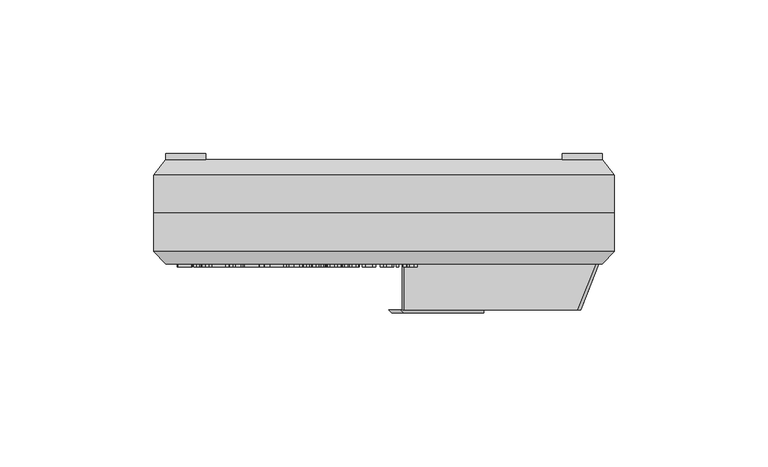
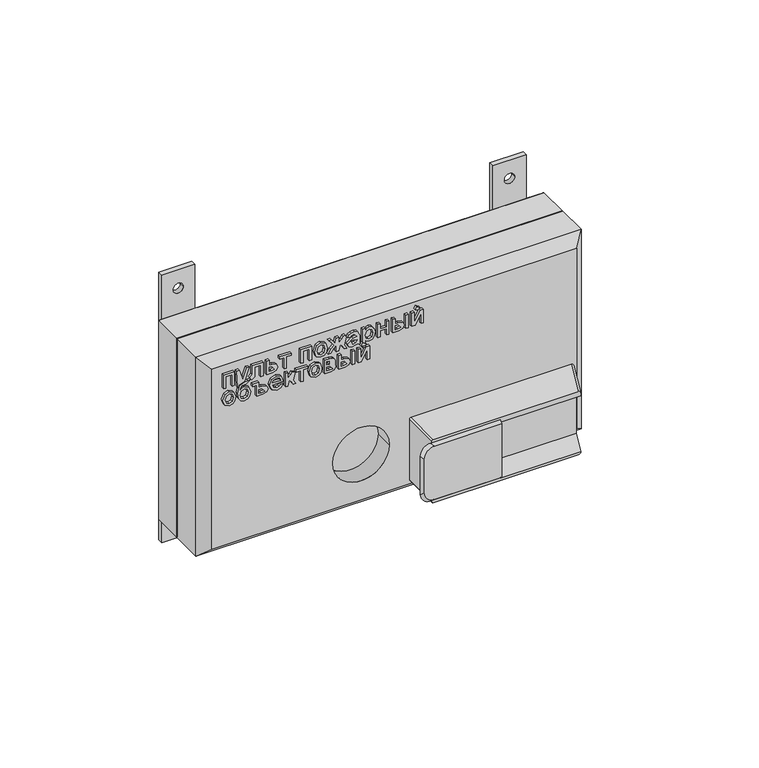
"""IFC4 building model written with IfcOpenShell, lengths in millimetres: alarm geometry, ППО 01_тип модель : ППО 01."""

from ifc_helpers import new_model, si_unit, point, frame, frame_2d, origin, place, context, project, spatial, polyline, circle_curve, trimmed, segment, composite_curve, outline, extrude, faceted_brep, source, transform, mapped, element, save
from ifc_brep_helpers import plane_surface, cylinder_surface, revolved_surface, extruded_surface, advanced_brep


def alarm_379a8da4(model_context):
    return source(origin(), model_context, "Body", "SolidModel", [
        extrude(outline(polyline([(13.658784, -58.0), (13.658784, -71.0), (-14.341216, -71.0), (-14.341216, -58.0), (13.658784, -58.0)]), holes=[composite_curve([segment(trimmed(circle_curve(frame_2d((6.158784, -64.5)), 2.0), [point((6.158784, -66.5))], [point((6.158784, -62.5))], True, "CARTESIAN"), True, "CONTINUOUS"), segment(trimmed(circle_curve(frame_2d((6.158784, -64.5)), 2.0), [point((6.158784, -62.5))], [point((6.158784, -66.5))], True, "CARTESIAN"), True, "CONTINUOUS")], self_intersect=False)]), frame((0.0, -2.0, 0.0), z_axis=(0.0, 1.0, 0.0), x_axis=(0.0, 0.0, 1.0)), (0.0, 0.0, 1.0), 2.0),
        extrude(outline(polyline([(-68.341216, -58.0), (-68.341216, -71.0), (-96.341216, -71.0), (-96.341216, -58.0), (-68.341216, -58.0)]), holes=[composite_curve([segment(trimmed(circle_curve(frame_2d((-88.841216, -64.5)), 2.0), [point((-88.841216, -66.5))], [point((-88.841216, -62.5))], True, "CARTESIAN"), True, "CONTINUOUS"), segment(trimmed(circle_curve(frame_2d((-88.841216, -64.5)), 2.0), [point((-88.841216, -62.5))], [point((-88.841216, -66.5))], True, "CARTESIAN"), True, "CONTINUOUS")], self_intersect=False)]), frame((0.0, -2.0, 0.0), z_axis=(0.0, 1.0, 0.0), x_axis=(0.0, 0.0, 1.0)), (0.0, 0.0, 1.0), 2.0),
        extrude(outline(polyline([(13.658784, 58.0), (-14.341216, 58.0), (-14.341216, 71.0), (13.658784, 71.0), (13.658784, 58.0)]), holes=[composite_curve([segment(trimmed(circle_curve(frame_2d((6.158784, 64.5)), 2.0), [point((6.158784, 66.5))], [point((6.158784, 62.5))], True, "CARTESIAN"), True, "CONTINUOUS"), segment(trimmed(circle_curve(frame_2d((6.158784, 64.5)), 2.0), [point((6.158784, 62.5))], [point((6.158784, 66.5))], True, "CARTESIAN"), True, "CONTINUOUS")], self_intersect=False)]), frame((0.0, -2.0, 0.0), z_axis=(0.0, 1.0, 0.0), x_axis=(0.0, 0.0, 1.0)), (0.0, 0.0, 1.0), 2.0),
        extrude(outline(polyline([(-68.341216, 58.0), (-96.341216, 58.0), (-96.341216, 71.0), (-68.341216, 71.0), (-68.341216, 58.0)]), holes=[composite_curve([segment(trimmed(circle_curve(frame_2d((-88.841216, 64.5)), 2.0), [point((-88.841216, 66.5))], [point((-88.841216, 62.5))], True, "CARTESIAN"), True, "CONTINUOUS"), segment(trimmed(circle_curve(frame_2d((-88.841216, 64.5)), 2.0), [point((-88.841216, 62.5))], [point((-88.841216, 66.5))], True, "CARTESIAN"), True, "CONTINUOUS")], self_intersect=False)]), frame((0.0, -2.0, 0.0), z_axis=(0.0, 1.0, 0.0), x_axis=(0.0, 0.0, 1.0)), (0.0, 0.0, 1.0), 2.0),
        extrude(outline(polyline([(-18.042941, -67.2829007), (-20.1840142, -66.5995599), (-20.9271358, -64.8088943), (-20.5896041, -63.5332634), (-19.6413883, -62.6439087), (-17.9656858, -62.3385667), (-15.9046269, -63.0292651), (-15.1587461, -64.8088943), (-15.7712697, -66.4680421), (-18.042941, -67.2829007)]), holes=[polyline([(-18.0411016, -66.3411228), (-16.5833692, -65.9051826), (-16.100524, -64.8088943), (-16.5852086, -63.7190439), (-18.011671, -63.2803446), (-19.4979143, -63.7162847), (-19.9853579, -64.8088943), (-19.5006734, -65.9051826), (-18.0411016, -66.3411228)])]), frame((0.0, -37.0, 0.0), z_axis=(0.0, 1.0, 0.0), x_axis=(0.0, 0.0, 1.0)), (0.0, 0.0, 1.0), 1.0),
        extrude(outline(polyline([(-13.2057526, -57.474247), (-13.2751903, -58.602725), (-14.0247499, -60.7999002), (-16.9337768, -61.514511), (-19.3461629, -61.2312419), (-20.4829183, -60.4173029), (-20.9271358, -58.93014), (-20.5822465, -57.6278377), (-19.6046001, -56.8010229), (-17.9840799, -56.4524547), (-15.9211816, -57.1551094), (-15.1587461, -58.93014), (-15.45857, -59.9813628), (-16.3598809, -60.7971411), (-15.1293156, -60.5957257), (-14.4340186, -59.9997569), (-14.2169682, -58.4463752), (-13.1574681, -56.570177), (-13.2057526, -57.474247)]), holes=[polyline([(-17.9546493, -57.3942326), (-19.4289364, -57.8283334), (-19.9853579, -58.9595705), (-19.5043522, -60.1073624), (-18.1165174, -60.5727331), (-16.6495879, -60.1515082), (-16.100524, -58.9540523), (-16.6201574, -57.8025817), (-17.9546493, -57.3942326)])]), frame((0.0, -37.0, 0.0), z_axis=(0.0, 1.0, 0.0), x_axis=(0.0, 0.0, 1.0)), (0.0, 0.0, 1.0), 1.0),
        extrude(outline(polyline([(-15.2764684, -55.7461213), (-16.2182463, -55.7461213), (-16.2182463, -54.2157322), (-20.8094136, -54.2157322), (-20.8094136, -51.9017545), (-20.3376049, -50.2885919), (-19.115317, -49.7422871), (-17.8939488, -50.3033072), (-17.3954687, -52.105929), (-17.3954687, -53.2739543), (-15.2764684, -53.2739543), (-15.2764684, -55.7461213)]), holes=[polyline([(-19.8676357, -53.2739543), (-18.3372466, -53.2739543), (-18.3372466, -52.1813448), (-19.6864538, -51.0528668), (-19.8676357, -52.3045852), (-19.8676357, -53.2739543)])]), frame((0.0, -37.0, 0.0), z_axis=(0.0, 1.0, 0.0), x_axis=(0.0, 0.0, 1.0)), (0.0, 0.0, 1.0), 1.0),
        extrude(outline(polyline([(-19.1613022, -44.8089896), (-19.788541, -45.4159949), (-19.9853579, -46.3393787), (-19.5604542, -47.5524696), (-18.3372466, -48.0941758), (-18.083408, -43.8561752), (-15.9257801, -44.570786), (-15.1587461, -46.4111157), (-15.9276195, -48.305708), (-18.0889262, -49.0359537), (-20.1812551, -48.3130656), (-20.9271358, -46.3577728), (-20.4948745, -44.7492088), (-19.2790245, -43.8856058), (-19.1613022, -44.8089896)]), holes=[polyline([(-17.3954687, -48.0941758), (-16.4527711, -47.5745425), (-16.100524, -46.4147945), (-16.5419824, -45.1750322), (-17.3954687, -44.7979531), (-17.3954687, -48.0941758)])]), frame((0.0, -37.0, 0.0), z_axis=(0.0, 1.0, 0.0), x_axis=(0.0, 0.0, 1.0)), (0.0, 0.0, 1.0), 1.0),
        extrude(outline(polyline([(-15.2764684, -42.9143973), (-20.8094136, -42.9143973), (-20.8094136, -41.9726194), (-18.3933486, -41.4667817), (-19.1116382, -40.970141), (-20.8094136, -39.9823778), (-20.8094136, -38.9118412), (-19.07485, -39.9198379), (-16.2237645, -39.1472857), (-15.6250366, -40.3953254), (-16.4757637, -40.8248276), (-17.6309131, -41.9726194), (-15.2764684, -41.9726194), (-15.2764684, -42.9143973)])), frame((0.0, -37.0, 0.0), z_axis=(0.0, 1.0, 0.0), x_axis=(0.0, 0.0, 1.0)), (0.0, 0.0, 1.0), 1.0),
        extrude(outline(polyline([(-15.2764684, -38.794119), (-16.2182463, -38.794119), (-16.2182463, -37.0282854), (-20.8094136, -37.0282854), (-20.8094136, -36.0865075), (-16.2182463, -36.0865075), (-16.2182463, -34.3206739), (-15.2764684, -34.3206739), (-15.2764684, -38.794119)])), frame((0.0, -37.0, 0.0), z_axis=(0.0, 1.0, 0.0), x_axis=(0.0, 0.0, 1.0)), (0.0, 0.0, 1.0), 1.0),
        extrude(outline(polyline([(-18.042941, -33.7320627), (-20.1840142, -33.0487219), (-20.9271358, -31.2580563), (-20.5896041, -29.9824255), (-19.6413883, -29.0930708), (-17.9656858, -28.7877287), (-15.9046269, -29.4784271), (-15.1587461, -31.2580563), (-15.7712697, -32.9172041), (-18.042941, -33.7320627)]), holes=[polyline([(-18.0411016, -32.7902848), (-16.5833692, -32.3543446), (-16.100524, -31.2580563), (-16.5852086, -30.1682059), (-18.011671, -29.7295066), (-19.4979143, -30.1654468), (-19.9853579, -31.2580563), (-19.5006734, -32.3543446), (-18.0411016, -32.7902848)])]), frame((0.0, -37.0, 0.0), z_axis=(0.0, 1.0, 0.0), x_axis=(0.0, 0.0, 1.0)), (0.0, 0.0, 1.0), 1.0),
        extrude(outline(polyline([(-15.2764684, -27.7282286), (-20.8094136, -27.7282286), (-20.8094136, -25.3351562), (-20.4102616, -23.9114529), (-19.187054, -23.3725057), (-18.2995387, -23.6245049), (-16.6689017, -23.6079502), (-15.8641599, -23.8755844), (-15.402468, -24.515699), (-15.2764684, -25.6533741), (-15.2764684, -27.7282286)]), holes=[polyline([(-19.8676357, -26.7864506), (-18.3372466, -26.7864506), (-18.3372466, -25.7232717), (-19.6974903, -24.6067498), (-19.8676357, -25.6313012), (-19.8676357, -26.7864506)]), polyline([(-17.3954687, -26.7864506), (-16.2182463, -26.7864506), (-16.2182463, -25.8262786), (-17.3954687, -25.8557092), (-17.3954687, -26.7864506)])]), frame((0.0, -37.0, 0.0), z_axis=(0.0, 1.0, 0.0), x_axis=(0.0, 0.0, 1.0)), (0.0, 0.0, 1.0), 1.0),
        extrude(outline(polyline([(-16.0737269, -37.0), (-17.0155049, -37.0), (-17.0155049, -36.0), (-16.0737269, -36.0), (-16.0737269, -37.0)])), frame((0.0, 0.0, -20.8094136), z_axis=(0.0, 0.0, 1.0), x_axis=(1.0, 0.0, 0.0)), (0.0, 0.0, 1.0), 5.5329452),
        extrude(outline(polyline([(-15.2764684, -22.1952833), (-20.8094136, -22.1952833), (-20.8094136, -19.8868238), (-20.2934591, -18.2377928), (-19.0509376, -17.7218383), (-17.7495551, -18.3371209), (-17.2777464, -20.0891589), (-17.2777464, -21.2535054), (-15.2764684, -21.2535054), (-15.2764684, -22.1952833)]), holes=[polyline([(-19.8676357, -21.2535054), (-18.2195243, -21.2535054), (-18.2195243, -20.1627353), (-19.6698991, -19.0370164), (-19.8676357, -20.2859758), (-19.8676357, -21.2535054)])]), frame((0.0, -37.0, 0.0), z_axis=(0.0, 1.0, 0.0), x_axis=(0.0, 0.0, 1.0)), (0.0, 0.0, 1.0), 1.0),
        extrude(outline(polyline([(-13.2751903, -12.7775043), (-14.3254934, -13.4636042), (-14.6878572, -12.3654764), (-14.3227343, -11.3510418), (-13.2751903, -12.7775043)])), frame((0.0, -37.0, 0.0), z_axis=(0.0, 1.0, 0.0), x_axis=(0.0, 0.0, 1.0)), (0.0, 0.0, 1.0), 1.0),
        extrude(outline(polyline([(-15.2764684, -14.6610601), (-20.8094136, -14.6610601), (-20.8094136, -13.4286554), (-16.6155588, -11.1293929), (-20.8094136, -11.1293929), (-20.8094136, -10.187615), (-15.2764684, -10.187615), (-15.2764684, -11.4053044), (-19.4960749, -13.7192822), (-15.2764684, -13.7192822), (-15.2764684, -14.6610601)])), frame((0.0, -37.0, 0.0), z_axis=(0.0, 1.0, 0.0), x_axis=(0.0, 0.0, 1.0)), (0.0, 0.0, 1.0), 1.0),
        extrude(outline(polyline([(-7.6671959, -67.0474562), (-13.2001411, -67.0474562), (-13.2001411, -66.1056783), (-8.6089738, -66.1056783), (-8.6089738, -63.7512335), (-13.2001411, -63.7512335), (-13.2001411, -62.8094556), (-7.6671959, -62.8094556), (-7.6671959, -67.0474562)])), frame((0.0, -37.0, 0.0), z_axis=(0.0, 1.0, 0.0), x_axis=(0.0, 0.0, 1.0)), (0.0, 0.0, 1.0), 1.0),
        extrude(outline(polyline([(-15.2722365, -60.7419588), (-14.5613045, -59.5408241), (-13.3325786, -59.0405046), (-7.6671959, -57.1146423), (-7.6671959, -58.1005661), (-10.8824846, -59.1913362), (-11.9677364, -59.5610576), (-10.7390106, -59.930779), (-7.6671959, -60.9921186), (-7.6671959, -61.9853999), (-14.4123123, -61.514511), (-15.2722365, -60.7419588)])), frame((0.0, -37.0, 0.0), z_axis=(0.0, 1.0, 0.0), x_axis=(0.0, 0.0, 1.0)), (0.0, 0.0, 1.0), 1.0),
        extrude(outline(polyline([(-7.6671959, -55.8638435), (-11.1951843, -55.8638435), (-12.2583632, -56.9233437), (-13.2001411, -56.1581491), (-12.4662165, -54.9855253), (-11.2485271, -54.9220656), (-8.6089738, -54.9220656), (-8.6089738, -52.5676209), (-13.1946229, -52.5676209), (-13.1946229, -51.625843), (-7.6671959, -51.625843), (-7.6671959, -55.8638435)])), frame((0.0, -37.0, 0.0), z_axis=(0.0, 1.0, 0.0), x_axis=(0.0, 0.0, 1.0)), (0.0, 0.0, 1.0), 1.0),
        extrude(outline(polyline([(-7.6671959, -50.2131761), (-13.2001411, -50.2131761), (-13.2001411, -48.0261176), (-12.6841866, -46.4635389), (-11.4416652, -45.9751755), (-10.1402826, -46.5490714), (-9.668474, -48.1861463), (-9.668474, -49.2713982), (-7.6671959, -49.2713982), (-7.6671959, -50.2131761)]), holes=[polyline([(-12.2583632, -49.2713982), (-10.6102519, -49.2713982), (-10.6102519, -48.2799562), (-12.0606266, -47.2563246), (-12.2583632, -48.3921602), (-12.2583632, -49.2713982)])]), frame((0.0, -37.0, 0.0), z_axis=(0.0, 1.0, 0.0), x_axis=(0.0, 0.0, 1.0)), (0.0, 0.0, 1.0), 1.0),
        extrude(outline(polyline([(-7.6671959, -45.2688421), (-8.6089738, -45.2688421), (-8.6089738, -43.5030085), (-13.2001411, -43.5030085), (-13.2001411, -42.5612306), (-8.6089738, -42.5612306), (-8.6089738, -40.795397), (-7.6671959, -40.795397), (-7.6671959, -45.2688421)])), frame((0.0, -37.0, 0.0), z_axis=(0.0, 1.0, 0.0), x_axis=(0.0, 0.0, 1.0)), (0.0, 0.0, 1.0), 1.0),
        extrude(outline(polyline([(-7.6671959, -37.0282854), (-13.2001411, -37.0282854), (-13.2001411, -36.0865075), (-8.6089738, -36.0865075), (-8.6089738, -33.7320627), (-13.2001411, -33.7320627), (-13.2001411, -32.7902848), (-7.6671959, -32.7902848), (-7.6671959, -37.0282854)])), frame((0.0, -37.0, 0.0), z_axis=(0.0, 1.0, 0.0), x_axis=(0.0, 0.0, 1.0)), (0.0, 0.0, 1.0), 1.0),
        extrude(outline(polyline([(-10.4336685, -31.6130624), (-12.5747417, -30.9297216), (-13.3178634, -29.139056), (-12.9803316, -27.8634252), (-12.0321158, -26.9740705), (-10.3564133, -26.6687284), (-8.2953544, -27.3594269), (-7.5494737, -29.139056), (-8.1619972, -30.7982038), (-10.4336685, -31.6130624)]), holes=[polyline([(-10.4318291, -30.6712845), (-8.9740967, -30.2353444), (-8.4912516, -29.139056), (-8.9759361, -28.0492056), (-10.4023986, -27.6105063), (-11.8886418, -28.0464465), (-12.3760855, -29.139056), (-11.8914009, -30.2353444), (-10.4318291, -30.6712845)])]), frame((0.0, -37.0, 0.0), z_axis=(0.0, 1.0, 0.0), x_axis=(0.0, 0.0, 1.0)), (0.0, 0.0, 1.0), 1.0),
        extrude(outline(polyline([(-7.6671959, -22.1952833), (-7.6671959, -23.1370613), (-9.821145, -23.689804), (-8.820506, -24.203919), (-7.726057, -25.1125876), (-7.6671959, -26.0801172), (-8.9860529, -25.145697), (-10.3269827, -24.0457298), (-11.4655775, -25.2689374), (-13.2001411, -26.3155617), (-13.2001411, -25.2376674), (-11.485811, -24.203919), (-10.6102519, -23.1370613), (-13.2001411, -23.1370613), (-13.2001411, -22.1952833), (-10.7785579, -21.6572559), (-11.4894898, -21.130265), (-13.2001411, -20.0965166), (-13.2001411, -19.0167829), (-11.4655775, -20.067086), (-8.6144921, -19.2522274), (-7.6671959, -19.6256276), (-7.8548157, -20.506705), (-8.820506, -21.1265862), (-10.0216407, -22.1952833), (-7.6671959, -22.1952833)])), frame((0.0, -37.0, 0.0), z_axis=(0.0, 1.0, 0.0), x_axis=(0.0, 0.0, 1.0)), (0.0, 0.0, 1.0), 1.0),
        extrude(outline(polyline([(-12.8469744, -14.8965046), (-13.2001411, -13.8370044), (-12.4082751, -14.0246242), (-10.77212, -14.0724489), (-9.6004158, -14.0724489), (-7.71686, -15.0519347), (-7.5494737, -16.1932886), (-7.7389329, -17.43581), (-8.27788, -18.2561869), (-9.197585, -18.6636162), (-9.3153073, -17.7218383), (-8.6724335, -17.267504), (-8.4912516, -16.3146897), (-9.668474, -15.019745), (-9.9922101, -16.6531411), (-11.7286131, -18.7813384), (-12.8708867, -18.3040115), (-13.3178634, -16.9364102), (-13.132083, -15.9274939), (-12.8469744, -14.8965046)]), holes=[polyline([(-11.1078123, -15.091482), (-12.1507577, -15.7831002), (-12.3760855, -16.7359145), (-11.0517103, -17.3438395), (-10.8990392, -16.5335794), (-11.1078123, -15.091482)])]), frame((0.0, -37.0, 0.0), z_axis=(0.0, 1.0, 0.0), x_axis=(0.0, 0.0, 1.0)), (0.0, 0.0, 1.0), 1.0),
        extrude(outline(polyline([(-15.3191414, -12.7775043), (-15.3191414, -11.8357264), (-12.4643771, -11.8357264), (-13.075981, -11.2388378), (-13.3178634, -10.4193807), (-12.9564193, -9.2283627), (-11.9171527, -8.3656794), (-10.3913621, -8.0686147), (-8.9400676, -8.3316504), (-7.9136769, -9.1115602), (-7.5494737, -10.3053373), (-7.8097502, -11.1845752), (-8.5905797, -11.8357264), (-7.6671959, -11.8357264), (-7.6671959, -12.7775043), (-15.3191414, -12.7775043)]), holes=[polyline([(-10.4778144, -11.8357264), (-8.9998484, -11.4007059), (-8.4912516, -10.4009866), (-8.9694982, -9.4205811), (-10.4079168, -9.0103926), (-11.8959995, -9.4306978), (-12.3760855, -10.4396142), (-11.9125541, -11.4282971), (-10.4778144, -11.8357264)])]), frame((0.0, -37.0, 0.0), z_axis=(0.0, 1.0, 0.0), x_axis=(0.0, 0.0, 1.0)), (0.0, 0.0, 1.0), 1.0),
        extrude(outline(polyline([(-7.6671959, -7.0091146), (-13.2001411, -7.0091146), (-13.2001411, -6.0673367), (-10.7279741, -6.0673367), (-10.7279741, -3.5951697), (-13.2001411, -3.5951697), (-13.2001411, -2.6533918), (-7.6671959, -2.6533918), (-7.6671959, -3.5951697), (-9.7861962, -3.5951697), (-9.7861962, -6.0673367), (-7.6671959, -6.0673367), (-7.6671959, -7.0091146)])), frame((0.0, -37.0, 0.0), z_axis=(0.0, 1.0, 0.0), x_axis=(0.0, 0.0, 1.0)), (0.0, 0.0, 1.0), 1.0),
        extrude(outline(polyline([(4.8808315, -37.0), (3.9390536, -37.0), (3.9390536, -36.0), (4.8808315, -36.0), (4.8808315, -37.0)])), frame((0.0, 0.0, -13.2001411), z_axis=(0.0, 0.0, 1.0), x_axis=(1.0, 0.0, 0.0)), (0.0, 0.0, 1.0), 5.5329452),
        extrude(outline(polyline([(-7.6671959, -1.2407249), (-13.2001411, -1.2407249), (-13.2001411, 1.0677346), (-12.6841866, 2.7167657), (-11.4416652, 3.2327202), (-10.1402826, 2.6174375), (-9.668474, 0.8653995), (-9.668474, -0.298947), (-7.6671959, -0.298947), (-7.6671959, -1.2407249)]), holes=[polyline([(-12.2583632, -0.298947), (-10.6102519, -0.298947), (-10.6102519, 0.7918231), (-12.0606266, 1.917542), (-12.2583632, 0.6685827), (-12.2583632, -0.298947)])]), frame((0.0, -37.0, 0.0), z_axis=(0.0, 1.0, 0.0), x_axis=(0.0, 0.0, 1.0)), (0.0, 0.0, 1.0), 1.0),
        extrude(outline(polyline([(-5.6659179, 8.1770542), (-6.716221, 7.4909543), (-7.0785847, 8.589082), (-6.7134618, 9.6035166), (-5.6659179, 8.1770542)])), frame((0.0, -37.0, 0.0), z_axis=(0.0, 1.0, 0.0), x_axis=(0.0, 0.0, 1.0)), (0.0, 0.0, 1.0), 1.0),
        extrude(outline(polyline([(-7.6671959, 6.2934984), (-13.2001411, 6.2934984), (-13.2001411, 7.525903), (-9.0062864, 9.8251655), (-13.2001411, 9.8251655), (-13.2001411, 10.7669434), (-7.6671959, 10.7669434), (-7.6671959, 9.549254), (-11.8868024, 7.2352763), (-7.6671959, 7.2352763), (-7.6671959, 6.2934984)])), frame((0.0, -37.0, 0.0), z_axis=(0.0, 1.0, 0.0), x_axis=(0.0, 0.0, 1.0)), (0.0, 0.0, 1.0), 1.0),
        advanced_brep(
        [(32.5046766, -52.0, -75.3057642), (32.5046766, -52.0, -53.3766678), (6.504184, -52.0, -53.3766678), (2.504184, -52.0, -57.3766678), (2.504184, -52.0, -71.3057642), (6.504184, -52.0, -75.3057642), (32.5046766, -51.0, -76.241216), (5.5, -51.0, -76.241216), (1.5, -51.0, -72.241216), (1.5, -51.0, -56.441216), (5.5, -51.0, -52.441216), (32.5046766, -51.0, -52.341216)],
        [
            (0, 1),
            (1, 2),
            (2, 3, circle_curve(frame((6.504184, -52.0, -57.3766678), z_axis=(0.0, -1.0, 0.0), x_axis=(-1.0, 0.0, 0.0)), 4.0)),
            (3, 4),
            (4, 5, circle_curve(frame((6.504184, -52.0, -71.3057642), z_axis=(0.0, -1.0, 0.0), x_axis=(0.0, 0.0, -1.0)), 4.0)),
            (5, 0),
            (6, 7),
            (7, 8, circle_curve(frame((5.5, -51.0, -72.241216), z_axis=(0.0, 1.0, 0.0), x_axis=(-1.0, 0.0, 0.0)), 4.0)),
            (8, 9),
            (9, 10, circle_curve(frame((5.5, -51.0, -56.441216), z_axis=(0.0, 1.0, 0.0), x_axis=(0.0, 0.0, 1.0)), 4.0)),
            (10, 11),
            (11, 6),
            (11, 1),
            (0, 6),
            (10, 2),
            (9, 3),
            (8, 4),
            (7, 5),
        ],
        [
            plane_surface(frame((13.8376815, -52.0, -64.341216), z_axis=(0.0, -1.0, 0.0), x_axis=(1.0, 0.0, 0.0))),
            plane_surface(frame((13.1682255, -51.0, -64.3245494), z_axis=(0.0, 1.0, 0.0), x_axis=(1.0, 0.0, 0.0))),
            plane_surface(frame((32.5046766, -51.0, -64.291216), z_axis=(1.0, 0.0, 0.0), x_axis=(0.0, 0.0, 1.0))),
            plane_surface(frame((19.0023383, -51.0, -52.341216), z_axis=(0.0, -0.7193134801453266, 0.6946856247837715), x_axis=(-1.0, 0.0, 0.0))),
            extruded_surface(trimmed(circle_curve(frame((5.5, -51.0, -56.441216), z_axis=(0.0, -1.0, 0.0), x_axis=(0.0, 0.0, 1.0)), 4.0), [point((5.5, -51.0, -52.441216))], [point((1.5, -51.0, -56.441216))], True, "CARTESIAN"), (1.0041840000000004, -1.0, -0.9354518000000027), 1.6980740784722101),
            plane_surface(frame((1.5, -51.0, -64.341216), z_axis=(-0.7056290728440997, -0.7085814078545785, 0.0), x_axis=(0.0, 0.0, -1.0))),
            extruded_surface(trimmed(circle_curve(frame((5.5, -51.0, -72.241216), z_axis=(0.0, -1.0, 0.0), x_axis=(-1.0, 0.0, 0.0)), 4.0), [point((1.5, -51.0, -72.241216))], [point((5.5, -51.0, -76.241216))], True, "CARTESIAN"), (1.0041840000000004, -1.0, 0.9354517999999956), 1.6980740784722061),
            plane_surface(frame((19.0023383, -51.0, -76.241216), z_axis=(0.0, -0.6831446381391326, -0.7302830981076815), x_axis=(1.0, 0.0, 0.0))),
        ],
        [
            (0, [[1, 2, 3, 4, 5, 6]]),
            (1, [[7, 8, 9, 10, 11, 12]]),
            (2, [[-12, 13, -1, 14]]),
            (3, [[-11, 15, -2, -13]]),
            (4, [[-10, 16, -3, -15]]),
            (5, [[-9, 17, -4, -16]]),
            (6, [[-8, 18, -5, -17]]),
            (7, [[-7, -14, -6, -18]]),
        ],
    ),
        advanced_brep(
        [(62.9690082, -51.0, -51.341216), (6.5330235, -51.0, -51.341216), (6.0, -51.0, -51.8742396), (6.0, -51.0, -76.8144136), (6.5268025, -51.0, -77.341216), (63.0336553, -51.0, -77.341216), (64.0, -51.0, -76.3748714), (32.5046766, -51.0, -76.341216), (32.5046766, -51.0, -53.3766678), (64.0, -51.0, -53.3766678), (64.0, -51.0, -52.3722078), (68.8690082, -36.0, -51.341216), (69.9, -36.0, -52.3722078), (69.9, -36.0, -76.3748714), (68.9336553, -36.0, -77.341216), (6.5268025, -36.0, -77.341216), (6.0, -36.0, -76.8144136), (6.0, -36.0, -51.8742396), (6.5330235, -36.0, -51.341216), (67.9333333, -41.0, -76.3748714), (67.9333333, -41.0, -53.3766678), (32.5046766, -41.0, -53.3766678), (32.5046766, -41.0, -76.341216)],
        [
            (0, 1),
            (1, 2, circle_curve(frame((6.5330235, -51.0, -51.8742396), z_axis=(0.0, -1.0, 0.0), x_axis=(-1.0, 0.0, 0.0)), 0.5330235)),
            (2, 3),
            (3, 4, circle_curve(frame((6.5268025, -51.0, -76.8144136), z_axis=(0.0, -1.0, 0.0), x_axis=(0.0, 0.0, -1.0)), 0.5268025)),
            (4, 5),
            (5, 6, circle_curve(frame((63.0336553, -51.0, -76.3748714), z_axis=(0.0, -1.0, 0.0), x_axis=(1.0, 0.0, 0.0)), 0.9663447)),
            (6, 7),
            (7, 8),
            (8, 9),
            (9, 10),
            (10, 0, circle_curve(frame((62.9690082, -51.0, -52.3722078), z_axis=(0.0, -1.0, 0.0), x_axis=(1.0, 0.0, 0.0)), 1.0309918)),
            (11, 12, circle_curve(frame((68.8690082, -36.0, -52.3722078), z_axis=(0.0, 1.0, 0.0), x_axis=(1.0, 0.0, 0.0)), 1.0309918)),
            (12, 13),
            (13, 14, circle_curve(frame((68.9336553, -36.0, -76.3748714), z_axis=(0.0, 1.0, 0.0), x_axis=(1.0, 0.0, 0.0)), 0.9663447)),
            (14, 15),
            (15, 16, circle_curve(frame((6.5268025, -36.0, -76.8144136), z_axis=(0.0, 1.0, 0.0), x_axis=(0.0, 0.0, -1.0)), 0.5268025)),
            (16, 17),
            (17, 18, circle_curve(frame((6.5330235, -36.0, -51.8742396), z_axis=(0.0, 1.0, 0.0), x_axis=(-1.0, 0.0, 0.0)), 0.5330235)),
            (18, 11),
            (0, 11),
            (18, 1),
            (17, 2),
            (16, 3),
            (15, 4),
            (14, 5),
            (13, 19),
            (19, 6),
            (12, 10),
            (9, 20),
            (20, 19),
            (21, 22),
            (22, 19),
            (20, 21),
            (21, 8),
            (7, 22),
        ],
        [
            plane_surface(frame((34.8828112, -51.0, -64.3500746), z_axis=(0.0, -1.0, 0.0), x_axis=(-1.0, 0.0, 0.0))),
            plane_surface(frame((37.8328112, -36.0, -64.3500746), z_axis=(0.0, 1.0, 0.0), x_axis=(-1.0, 0.0, 0.0))),
            plane_surface(frame((37.7010159, -36.0, -51.341216), z_axis=(0.0, 0.0, 1.0), x_axis=(-1.0, 0.0, 0.0))),
            cylinder_surface(frame((6.5330235, -36.0, -51.8742396), z_axis=(0.0, -1.0, 0.0), x_axis=(-1.0, 0.0, 0.0)), 0.5330235),
            plane_surface(frame((6.0, -36.0, -64.3443266), z_axis=(-1.0, 0.0, 0.0), x_axis=(0.0, 0.0, -1.0))),
            cylinder_surface(frame((6.5268025, -36.0, -76.8144136), z_axis=(0.0, -1.0, 0.0), x_axis=(0.0, 0.0, -1.0)), 0.5268025),
            plane_surface(frame((37.7302289, -36.0, -77.341216), z_axis=(0.0, 0.0, -1.0), x_axis=(1.0, 0.0, 0.0))),
            extruded_surface(trimmed(circle_curve(frame((68.9336553, -36.0, -76.3748714), z_axis=(0.0, -1.0, 0.0), x_axis=(1.0, 0.0, 0.0)), 0.9663447), [point((68.9336553, -36.0, -77.341216))], [point((69.9, -36.0, -76.3748714))], True, "CARTESIAN"), (-5.899999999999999, -15.0, 0.0), 16.118622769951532),
            plane_surface(frame((69.9, -36.0, -64.3735396), z_axis=(0.9306005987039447, -0.36603623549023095, 0.0), x_axis=(0.0, 0.0, 1.0))),
            extruded_surface(trimmed(circle_curve(frame((68.8690082, -36.0, -52.3722078), z_axis=(0.0, -1.0, 0.0), x_axis=(1.0, 0.0, 0.0)), 1.0309918), [point((69.9, -36.0, -52.3722078))], [point((68.8690082, -36.0, -51.341216))], True, "CARTESIAN"), (-5.899999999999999, -15.0, 0.0), 16.118622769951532),
            plane_surface(frame((32.5046766, -41.0, -52.441216), z_axis=(0.0, -1.0, 0.0), x_axis=(0.0, 0.0, 1.0))),
            plane_surface(frame((32.5046766, -41.0, -76.341216), z_axis=(1.0, 0.0, 0.0), x_axis=(0.0, -1.0, 0.0))),
            plane_surface(frame((32.5046766, -41.0, -53.3766678), z_axis=(0.0, 0.0, -1.0), x_axis=(0.0, -1.0, 0.0))),
            plane_surface(frame((80.687438, -41.0, -76.341216), z_axis=(0.0, 0.0, 1.0), x_axis=(0.0, -1.0, 0.0))),
        ],
        [
            (0, [[1, 2, 3, 4, 5, 6, 7, 8, 9, 10, 11]]),
            (1, [[12, 13, 14, 15, 16, 17, 18, 19]]),
            (2, [[-1, 20, -19, 21]]),
            (3, [[-2, -21, -18, 22]]),
            (4, [[-3, -22, -17, 23]]),
            (5, [[-4, -23, -16, 24]]),
            (6, [[-5, -24, -15, 25]]),
            (7, [[-6, -25, -14, 26, 27]]),
            (8, [[-13, 28, -10, 29, 30, -26]]),
            (9, [[-11, -28, -12, -20]]),
            (10, [[31, 32, -30, 33]]),
            (11, [[-31, 34, -8, 35]]),
            (12, [[-33, -29, -9, -34]]),
            (13, [[-32, -35, -7, -27]]),
        ],
    ),
        faceted_brep([(75.0, -19.267232, -82.341216), (75.0, -19.267232, -0.341216), (-75.0, -19.267232, -0.341216), (-75.0, -19.267232, -82.341216), (75.0, -7.0, -82.341216), (75.0, -7.0, -0.341216), (-75.0, -7.0, -0.341216), (-75.0, -7.0, -82.341216), (71.0, -2.0, -78.341216), (-71.0, -2.0, -78.341216), (-71.0, -2.0, -4.341216), (71.0, -2.0, -4.341216)], [[[0, 1, 2, 3]], [[1, 0, 4, 5]], [[2, 1, 5, 6]], [[3, 2, 6, 7]], [[0, 3, 7, 4]], [[8, 9, 10, 11]], [[8, 11, 5, 4]], [[11, 10, 6, 5]], [[10, 9, 7, 6]], [[9, 8, 4, 7]]]),
        advanced_brep(
        [(71.0, -36.0, -78.341216), (71.0, -36.0, -4.341216), (-71.0, -36.0, -4.341216), (-71.0, -36.0, -78.341216), (-24.0017238, -36.0, -59.577931), (-2.0017238, -36.0, -59.577931), (75.0, -32.0, -82.341216), (75.0, -32.0, -0.341216), (-75.0, -32.0, -0.341216), (-75.0, -32.0, -82.341216), (75.0, -19.267232, -82.341216), (-75.0, -19.267232, -82.341216), (-75.0, -19.267232, -0.341216), (75.0, -19.267232, -0.341216), (-24.0017238, -28.5375108, -59.577931), (-2.0017238, -28.5375108, -59.577931)],
        [
            (0, 1),
            (1, 2),
            (2, 3),
            (3, 0),
            (4, 5, circle_curve(frame((-13.0017238, -36.0, -59.577931), z_axis=(0.0, 1.0, 0.0), x_axis=(1.0, 0.0, 0.0)), 11.0)),
            (5, 4, circle_curve(frame((-13.0017238, -36.0, -59.577931), z_axis=(0.0, 1.0, 0.0), x_axis=(1.0, 0.0, 0.0)), 11.0)),
            (0, 6),
            (6, 7),
            (7, 1),
            (7, 8),
            (8, 2),
            (8, 9),
            (9, 3),
            (9, 6),
            (10, 11),
            (11, 12),
            (12, 13),
            (13, 10),
            (13, 7),
            (6, 10),
            (12, 8),
            (11, 9),
            (14, 15, circle_curve(frame((-13.0017238, -28.5375108, -59.577931), z_axis=(0.0, -1.0, 0.0), x_axis=(1.0, 0.0, 0.0)), 11.0)),
            (15, 14, circle_curve(frame((-13.0017238, -28.5375108, -59.577931), z_axis=(0.0, -1.0, 0.0), x_axis=(1.0, 0.0, 0.0)), 11.0)),
            (15, 5),
            (4, 14),
        ],
        [
            plane_surface(frame((0.0, -36.0, -41.341216), z_axis=(0.0, -1.0, 0.0), x_axis=(0.0, 0.0, -1.0))),
            plane_surface(frame((71.0, -36.0, -41.341216), z_axis=(0.7071067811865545, -0.7071067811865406, 0.0), x_axis=(0.0, 0.0, -1.0))),
            plane_surface(frame((0.0, -36.0, -4.341216), z_axis=(0.0, -0.7071067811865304, 0.7071067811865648), x_axis=(1.0, 0.0, 0.0))),
            plane_surface(frame((-71.0, -36.0, -41.341216), z_axis=(-0.7071067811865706, -0.7071067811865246, 0.0), x_axis=(0.0, 0.0, 1.0))),
            plane_surface(frame((0.0, -36.0, -78.341216), z_axis=(0.0, -0.7071067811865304, -0.7071067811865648), x_axis=(-1.0, 0.0, 0.0))),
            plane_surface(frame((75.0, -19.267232, -82.341216), z_axis=(0.0, 1.0, 0.0), x_axis=(0.0, 0.0, -1.0))),
            plane_surface(frame((75.0, -32.0, -82.341216), z_axis=(1.0, 0.0, 0.0), x_axis=(0.0, 1.0, 0.0))),
            plane_surface(frame((75.0, -32.0, -0.341216), z_axis=(0.0, 0.0, 1.0), x_axis=(0.0, 1.0, 0.0))),
            plane_surface(frame((-75.0, -32.0, -0.341216), z_axis=(-1.0, 0.0, 0.0), x_axis=(0.0, 1.0, 0.0))),
            plane_surface(frame((-75.0, -32.0, -82.341216), z_axis=(0.0, 0.0, -1.0), x_axis=(0.0, 1.0, 0.0))),
            plane_surface(frame((-2.0017238, -28.5375108, -59.577931), z_axis=(0.0, -1.0, 0.0), x_axis=(0.0, 0.0, -1.0))),
            revolved_surface(polyline([(-2.0017238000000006, -28.5375108, -59.577931), (-2.0017238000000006, -36.0, -59.577931)]), (-13.0017238, -44.7183824, -59.577931), (0.0, 1.0, 0.0)),
        ],
        [
            (0, [[1, 2, 3, 4], [5, 6]]),
            (1, [[-1, 7, 8, 9]]),
            (2, [[-2, -9, 10, 11]]),
            (3, [[-3, -11, 12, 13]]),
            (4, [[-4, -13, 14, -7]]),
            (5, [[15, 16, 17, 18]]),
            (6, [[-18, 19, -8, 20]]),
            (7, [[-17, 21, -10, -19]]),
            (8, [[-16, 22, -12, -21]]),
            (9, [[-15, -20, -14, -22]]),
            (10, [[23, 24]]),
            (11, [[-24, 25, -5, 26]]),
            (11, [[-23, -26, -6, -25]]),
        ],
    ),
    ])


if __name__ == "__main__":
    model = new_model("IFC4")
    model_context = context("Model", 3, world=origin())
    ifc_project = project(units=[si_unit("LENGTHUNIT", "METRE", prefix="MILLI")], contexts=[model_context])
    site = spatial("IfcSite", under=ifc_project)
    building = spatial("IfcBuilding", under=site)
    placement = place(None, origin())
    alarm_shape = alarm_379a8da4(model_context)
    element("IfcAlarm", 1, ObjectType="ППО 01_тип модель : ППО 01", at=placement, inside=building, context=model_context, shape_type="MappedRepresentation", body=[
        mapped(alarm_shape, transform((0.0, 0.0, 0.0), x_axis=(1.0, 0.0, 0.0), y_axis=(0.0, 1.0, 0.0), z_axis=(0.0, 0.0, 1.0))),
    ])
    save(model, "model.ifc")
